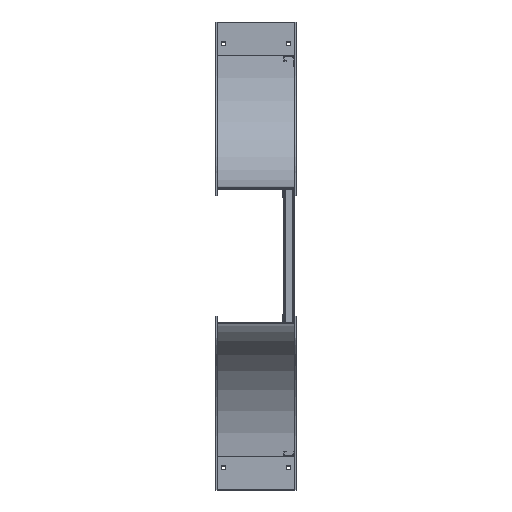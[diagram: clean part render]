
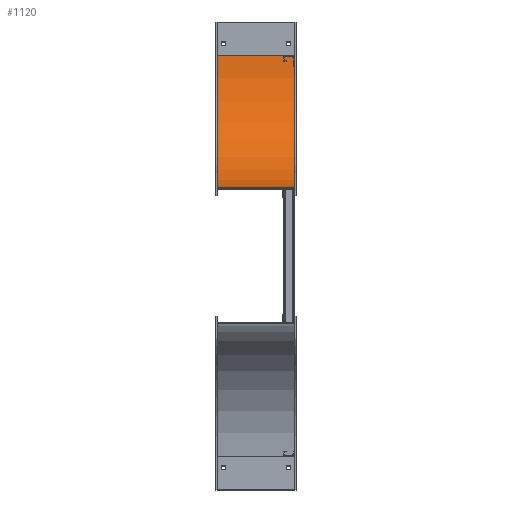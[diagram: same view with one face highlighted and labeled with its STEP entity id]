
A CAD part, left-side view. The second image highlights one B-rep face of the part: STEP entity #1120.
In plain terms, the highlighted cylindrical face has radius 303.657 mm (diameter 607.314 mm), a partial arc.
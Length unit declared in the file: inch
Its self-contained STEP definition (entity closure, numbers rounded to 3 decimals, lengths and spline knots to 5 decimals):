
#157=CARTESIAN_POINT('',(7.13,-12.,3.));
#158=DIRECTION('',(1.,0.,0.));
#159=DIRECTION('',(0.,1.,0.));
#160=AXIS2_PLACEMENT_3D('',#157,#158,#159);
#350=DIRECTION('',(1.,0.,0.));
#351=VECTOR('',#350,7.02);
#352=CARTESIAN_POINT('',(0.11,-12.,14.955));
#353=LINE('',#352,#351);
#390=DIRECTION('',(1.,0.,0.));
#391=VECTOR('',#390,7.02);
#392=CARTESIAN_POINT('',(0.11,-0.045,3.));
#393=LINE('',#392,#391);
#394=CARTESIAN_POINT('',(0.11,-12.,3.));
#395=DIRECTION('',(1.,0.,0.));
#396=DIRECTION('',(0.,1.,0.));
#397=AXIS2_PLACEMENT_3D('',#394,#395,#396);
#521=CARTESIAN_POINT('',(0.11,-0.045,3.));
#522=CARTESIAN_POINT('',(7.13,-0.045,3.));
#523=VERTEX_POINT('',#521);
#524=VERTEX_POINT('',#522);
#545=CARTESIAN_POINT('',(0.11,-12.,14.955));
#546=CARTESIAN_POINT('',(7.13,-12.,14.955));
#547=VERTEX_POINT('',#545);
#548=VERTEX_POINT('',#546);
#1109=CARTESIAN_POINT('',(-1.,-12.,3.));
#1110=DIRECTION('',(1.,0.,0.));
#1111=DIRECTION('',(0.,-1.,0.));
#1112=AXIS2_PLACEMENT_3D('',#1109,#1110,#1111);
#1113=CYLINDRICAL_SURFACE('',#1112,11.955);
#1114=ORIENTED_EDGE('',*,*,#894,.F.);
#1115=ORIENTED_EDGE('',*,*,#935,.T.);
#1116=ORIENTED_EDGE('',*,*,#1082,.T.);
#1117=ORIENTED_EDGE('',*,*,#872,.F.);
#1118=EDGE_LOOP('',(#1114,#1115,#1116,#1117));
#1119=FACE_OUTER_BOUND('',#1118,.F.);
#1120=ADVANCED_FACE('',(#1119),#1113,.F.);
#161=CIRCLE('',#160,11.955);
#398=CIRCLE('',#397,11.955);
#872=EDGE_CURVE('',#524,#548,#161,.T.);
#894=EDGE_CURVE('',#523,#524,#393,.T.);
#935=EDGE_CURVE('',#523,#547,#398,.T.);
#1082=EDGE_CURVE('',#547,#548,#353,.T.);
